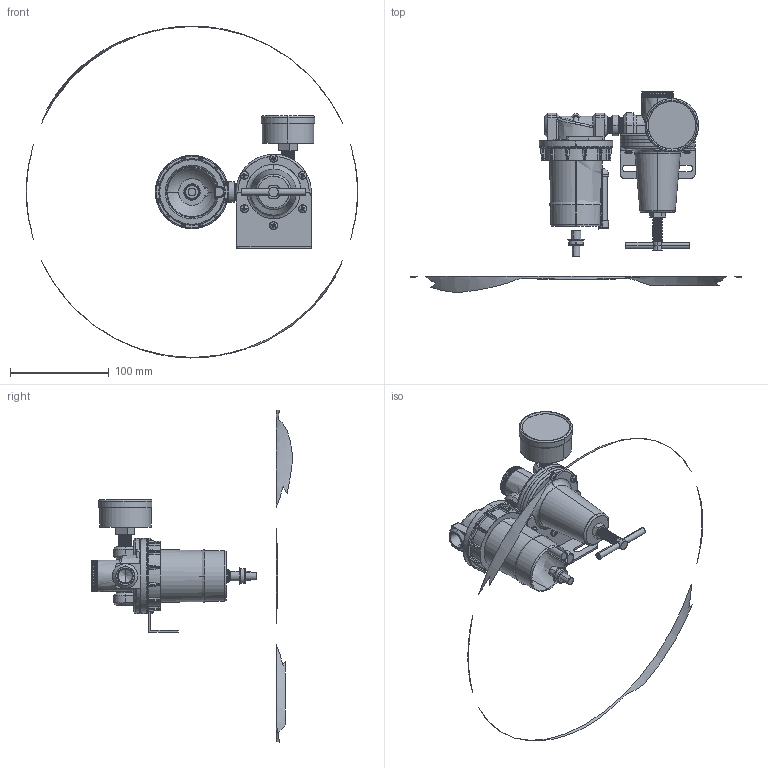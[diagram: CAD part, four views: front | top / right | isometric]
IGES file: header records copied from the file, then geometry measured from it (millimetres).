
Start section: SolidWorks IGES file using analytic representation for surfaces
Global section: file name: C:\Users\Toshiba\Desktop\U628#W-03#YB#.IGS; native system: SolidWorks 2014; preprocessor: SolidWorks 2014; author: Toshiba; date: 160216.145043; units: millimetre
Bounding box: 335.1 x 203.9 x 335.68 mm (x, y, z)
Surface area: 122641.4 mm2 (no closed solid volume)
Topology: 0 solids, 0 shells, 1209 faces, 14437 edges, 14411 vertices
Faces by surface type: bspline 609, revolution 600
